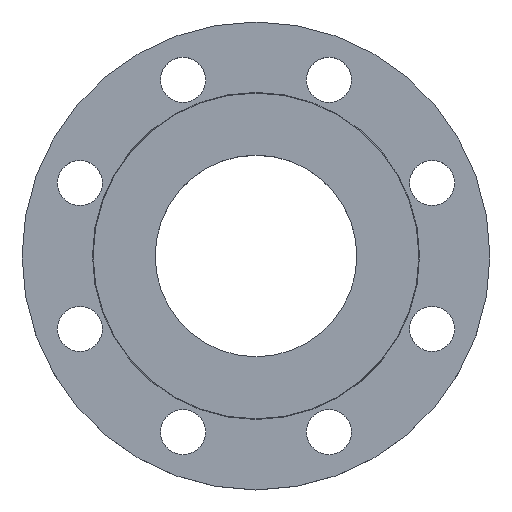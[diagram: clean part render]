
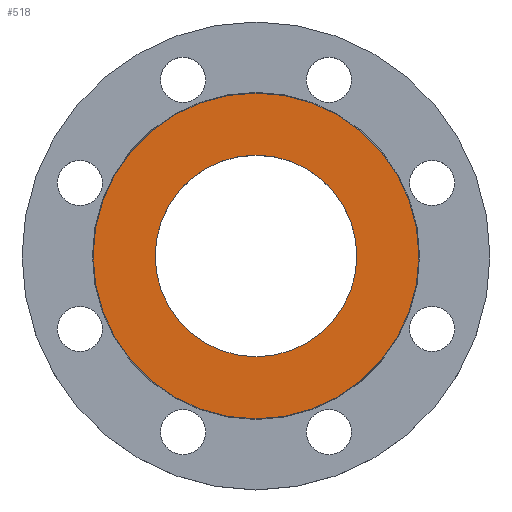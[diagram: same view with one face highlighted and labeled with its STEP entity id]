
A CAD part, top view. The second image highlights one B-rep face of the part: STEP entity #518.
In plain terms, the highlighted planar face has unit normal (0, 0, 1).
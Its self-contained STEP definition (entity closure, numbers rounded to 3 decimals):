
#94 = CARTESIAN_POINT ( 'NONE',  ( 94., 0., 0. ) ) ;
#107 = CARTESIAN_POINT ( 'NONE',  ( -58.17, 0., 0. ) ) ;
#112 = CARTESIAN_POINT ( 'NONE',  ( -94., 0., 0. ) ) ;
#116 = DIRECTION ( 'NONE',  ( -1., 0., 0. ) ) ;
#117 = DIRECTION ( 'NONE',  ( 0., 0., -1. ) ) ;
#118 = CARTESIAN_POINT ( 'NONE',  ( 0., 0., 0. ) ) ;
#187 = AXIS2_PLACEMENT_3D ( 'NONE', #454, #728, #485 ) ;
#196 = EDGE_CURVE ( 'NONE', #973, #955, #241, .T. ) ;
#200 = AXIS2_PLACEMENT_3D ( 'NONE', #688, #689, #691 ) ;
#202 = CIRCLE ( 'NONE', #187, 58.17 ) ;
#241 = CIRCLE ( 'NONE', #200, 94. ) ;
#248 = EDGE_CURVE ( 'NONE', #961, #645, #771, .T. ) ;
#278 = EDGE_CURVE ( 'NONE', #645, #961, #202, .T. ) ;
#318 = CARTESIAN_POINT ( 'NONE',  ( 58.17, 0., 0. ) ) ;
#415 = CIRCLE ( 'NONE', #433, 94. ) ;
#433 = AXIS2_PLACEMENT_3D ( 'NONE', #118, #117, #116 ) ;
#454 = CARTESIAN_POINT ( 'NONE',  ( 0., 0., 0. ) ) ;
#485 = DIRECTION ( 'NONE',  ( 1., 0., 0. ) ) ;
#518 = ADVANCED_FACE ( 'NONE', ( #717, #718 ), #719, .T. ) ;
#645 = VERTEX_POINT ( 'NONE', #318 ) ;
#688 = CARTESIAN_POINT ( 'NONE',  ( 0., 0., 0. ) ) ;
#689 = DIRECTION ( 'NONE',  ( 0., 0., -1. ) ) ;
#691 = DIRECTION ( 'NONE',  ( -1., 0., 0. ) ) ;
#708 = CARTESIAN_POINT ( 'NONE',  ( 0., 0., 0. ) ) ;
#710 = DIRECTION ( 'NONE',  ( 0., 0., 1. ) ) ;
#715 = DIRECTION ( 'NONE',  ( 1., 0., 0. ) ) ;
#717 = FACE_BOUND ( 'NONE', #968, .T. ) ;
#718 = FACE_OUTER_BOUND ( 'NONE', #956, .T. ) ;
#719 = PLANE ( 'NONE',  #933 ) ;
#721 = CARTESIAN_POINT ( 'NONE',  ( 0., 0., 0. ) ) ;
#722 = DIRECTION ( 'NONE',  ( 1., 0., 0. ) ) ;
#725 = DIRECTION ( 'NONE',  ( 0., 0., 1. ) ) ;
#728 = DIRECTION ( 'NONE',  ( 0., 0., 1. ) ) ;
#771 = CIRCLE ( 'NONE', #774, 58.17 ) ;
#774 = AXIS2_PLACEMENT_3D ( 'NONE', #708, #710, #715 ) ;
#844 = ORIENTED_EDGE ( 'NONE', *, *, #278, .F. ) ;
#845 = ORIENTED_EDGE ( 'NONE', *, *, #248, .F. ) ;
#846 = ORIENTED_EDGE ( 'NONE', *, *, #945, .F. ) ;
#847 = ORIENTED_EDGE ( 'NONE', *, *, #196, .F. ) ;
#933 = AXIS2_PLACEMENT_3D ( 'NONE', #721, #725, #722 ) ;
#945 = EDGE_CURVE ( 'NONE', #955, #973, #415, .T. ) ;
#955 = VERTEX_POINT ( 'NONE', #112 ) ;
#956 = EDGE_LOOP ( 'NONE', ( #846, #847 ) ) ;
#961 = VERTEX_POINT ( 'NONE', #107 ) ;
#968 = EDGE_LOOP ( 'NONE', ( #844, #845 ) ) ;
#973 = VERTEX_POINT ( 'NONE', #94 ) ;
